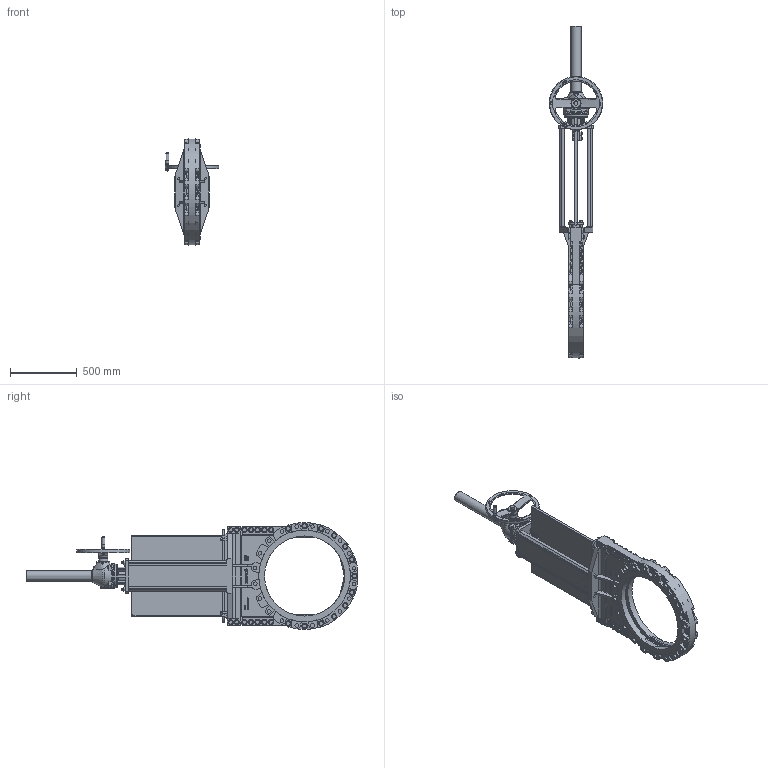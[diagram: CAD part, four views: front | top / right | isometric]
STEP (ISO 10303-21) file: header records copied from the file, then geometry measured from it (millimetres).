
FILE_DESCRIPTION(/* description */ (''),/* implementation_level */ '2;1');
FILE_NAME(/* name */ 'F:\3D Sammanställningar\WB\DN600\WB14E-WEE-DN600-ANSI-GK14.stp',/* time_stamp */ '2021-06-30T15:17:48+02:00',/* author */ ('MATZET'),/* organization */ (''),/* preprocessor_version */ 'ST-DEVELOPER v18',/* originating_system */ 'Autodesk Inventor 2020',/* authorisation */ '');
FILE_SCHEMA (('AUTOMOTIVE_DESIGN { 1 0 10303 214 3 1 1 }'));
Products named in the file (1): WB14E-WEE-DN600-ANSI-GK14_Shrinkwrap_1
Bounding box: 400 x 2484.59 x 799.13 mm (x, y, z)
Volume: 60139089.9 mm3; surface area: 6151089.4 mm2
Topology: 1 solids, 1 shells, 4379 faces, 11333 edges, 7408 vertices
Faces by surface type: plane 2271, cylinder 780, bspline 740, cone 422, torus 130, sphere 36
Full cylindrical faces by diameter (mm): 2 x2, 4 x2, 5.2 x4, 6.3 x2, 7 x1, 8.5 x4, 9 x1, 10 x4, 11 x8, 12 x24, 13 x5, 14 x4, 14.63 x2, 16 x4, 17.294 x4, 18 x5, 20 x39, 21 x4, 22 x4, 22.49 x4, 24 x8, 25 x1, 26 x4, 27.813 x40, 28.19 x27, 28.3 x2, 29 x3, 30 x11, 33 x1, 37 x58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
Entity records: 248159 total; most frequent: CARTESIAN_POINT 141829, ORIENTED_EDGE 22558, DIRECTION 19186, EDGE_CURVE 11279, VERTEX_POINT 7408, AXIS2_PLACEMENT_3D 6757, LINE 5672, VECTOR 5672
